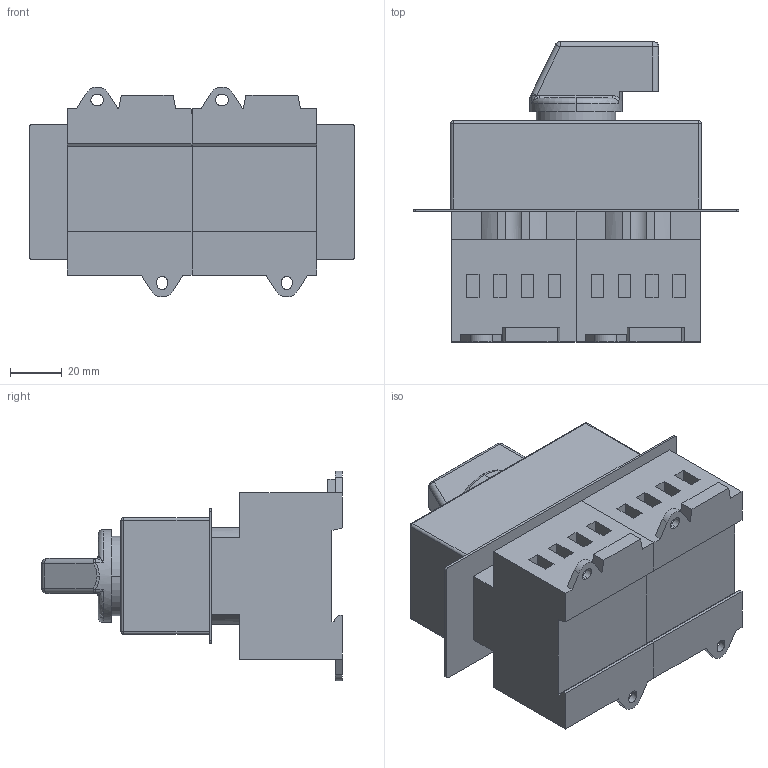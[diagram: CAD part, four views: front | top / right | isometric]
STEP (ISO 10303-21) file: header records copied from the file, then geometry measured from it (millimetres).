
FILE_DESCRIPTION (( 'STEP AP203' ), '1' );
FILE_NAME ('LTS20_25_32_40 SMAH1 A8.STEP', '2014-05-12T06:02:16', ( '' ), ( '' ), 'SwSTEP 2.0', 'SolidWorks 2014', '' );
FILE_SCHEMA (( 'CONFIG_CONTROL_DESIGN' ));
Length unit declared in the file: millimetre
Products named in the file (4): LTS25; G2_64x64_nur griff; Abdeckung_Schlitzverteiler_Umschalter_LT; LTS20_25_32_40 SMAH1 A8
Assembly tree (4 placements, depth 2):
  LTS20_25_32_40 SMAH1 A8
    LTS25  x2
    Abdeckung_Schlitzverteiler_Umschalter_LT
    G2_64x64_nur griff
Bounding box: 125.4 x 115.7 x 80.8 mm (x, y, z)
Volume: 432055.5 mm3; surface area: 74672 mm2
Topology: 4 solids, 4 shells, 336 faces, 845 edges, 543 vertices
Faces by surface type: plane 214, cylinder 96, sphere 10, bspline 8, cone 4, torus 4
Entity records: 6634 total; most frequent: CARTESIAN_POINT 1368, DIRECTION 1022, ORIENTED_EDGE 988, EDGE_CURVE 494, AXIS2_PLACEMENT_3D 350, VECTOR 322, LINE 322, VERTEX_POINT 316
